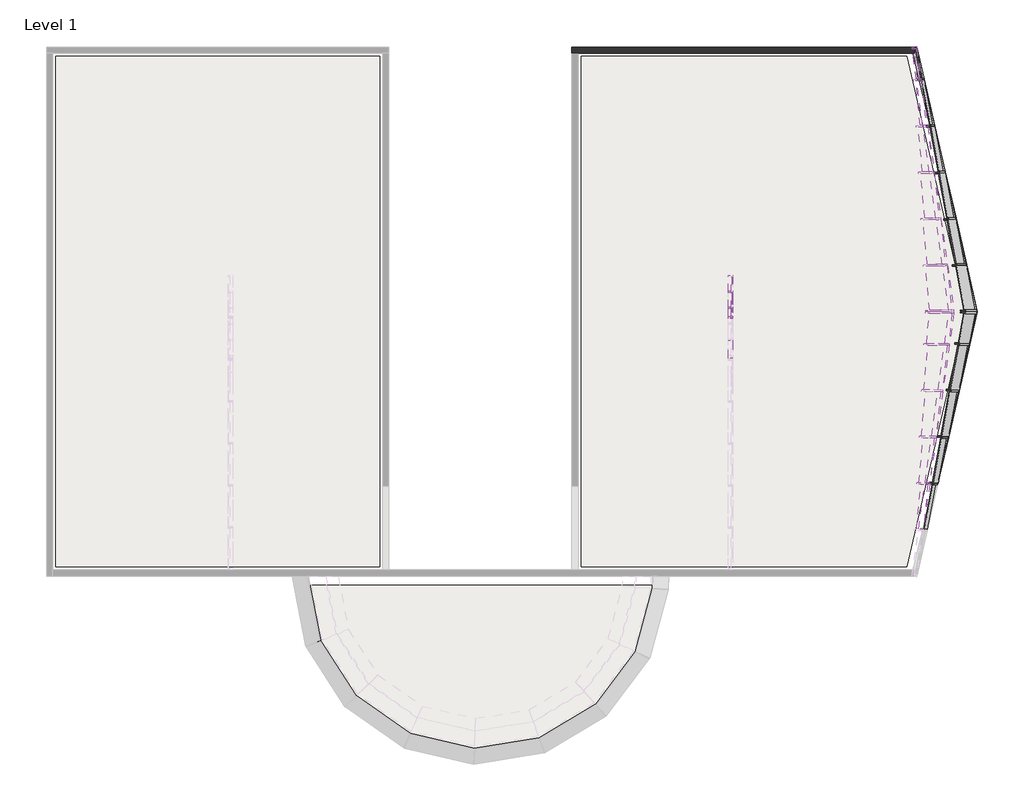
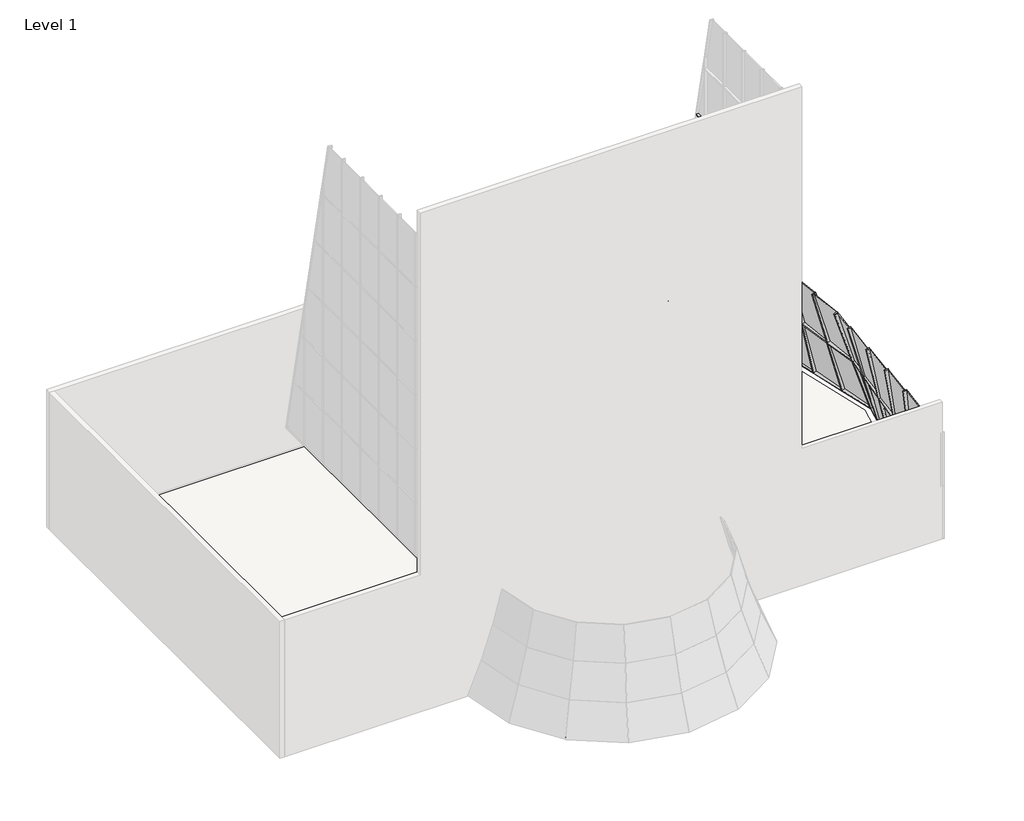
# One storey, part 4 of 4: 54 members, 24 plates, 2 slabs, 1 wall.
"""IFC4 building model written with IfcOpenShell, lengths in millimetres."""

from ifc_helpers import new_model, si_unit, point, frame, frame_2d, origin, place, context, project, spatial, polyline, circle_curve, trimmed, segment, composite_curve, outline, extrude, faceted_brep, transform, mapped, element, save
from components import rectangular_mullion_50_x_150mm_518b68e2, rectangular_mullion_50_x_150mm_6225e4e3, rectangular_mullion_50_x_150mm_8bc02e5d, rectangular_mullion_50_x_150mm_dfc8eed1, rectangular_mullion_50_x_150mm_56520ca9, rectangular_mullion_50_x_150mm_20ae9b8c, rectangular_mullion_50_x_150mm_801099e8, rectangular_mullion_50_x_150mm_69968c43, rectangular_mullion_50_x_150mm_676c024c, rectangular_mullion_50_x_150mm_129f4e6a, rectangular_mullion_50_x_150mm_15da01e7, rectangular_mullion_50_x_150mm_983cf9b3, rectangular_mullion_50_x_150mm_8846c378, rectangular_mullion_50_x_150mm_6840e1ac, rectangular_mullion_50_x_150mm_703a751b, rectangular_mullion_50_x_150mm_236c09f6, rectangular_mullion_50_x_150mm_9c993106, rectangular_mullion_50_x_150mm_60b7ab08, rectangular_mullion_50_x_150mm_e77f4dab, rectangular_mullion_50_x_150mm_2d7e4c86, rectangular_mullion_50_x_150mm_16837953, rectangular_mullion_50_x_150mm_7fbdd70b, rectangular_mullion_50_x_150mm_25ba70fb, rectangular_mullion_50_x_150mm_ec1c4419, rectangular_mullion_50_x_150mm_3088cb93, rectangular_mullion_50_x_150mm_96efe59e, rectangular_mullion_50_x_150mm_98b5b9d9, rectangular_mullion_50_x_150mm_c6ec9276, rectangular_mullion_50_x_150mm_3a427f09, rectangular_mullion_50_x_150mm_53b6e98a, rectangular_mullion_50_x_150mm_1572fd96, rectangular_mullion_50_x_150mm_5f09bd8f, rectangular_mullion_50_x_150mm_83d39878, rectangular_mullion_50_x_150mm_12241330, rectangular_mullion_50_x_150mm_e71b960d, rectangular_mullion_50_x_150mm_5c538901, rectangular_mullion_50_x_150mm_f722e24b, rectangular_mullion_50_x_150mm_84a9ff01, system_panel_glazed_84769eb7, system_panel_glazed_75138732, system_panel_glazed_98719c6a, system_panel_glazed_b6fc6198, system_panel_glazed_c1d942a5, system_panel_glazed_35f86fc2, system_panel_glazed_e6de464a, system_panel_glazed_34c2af45, system_panel_glazed_025133a9, system_panel_glazed_56b31b0b, system_panel_glazed_68d94cce, system_panel_glazed_0da2abb7, system_panel_glazed_028a0f7a, system_panel_glazed_7b28161b, system_panel_glazed_d099ec71, system_panel_glazed_9e20f47e, system_panel_glazed_84d2a35a, system_panel_glazed_6b13773f, system_panel_glazed_4526ffdc, system_panel_glazed_4e854008, system_panel_glazed_cf6f0135, system_panel_glazed_610fa7a8, system_panel_glazed_08bc44e3, system_panel_glazed_6285a200

model = new_model("IFC4")

# Units and contexts
model_context = context("Model", 3, world=origin())
ifc_project = project(units=[si_unit("LENGTHUNIT", "METRE", prefix="MILLI")], contexts=[model_context])

# Site, building, storey
site = spatial("IfcSite", under=ifc_project)
building = spatial("IfcBuilding", under=site)
storey = spatial("IfcBuildingStorey", under=building, Name="Level 1", Elevation=0.0)

# Members
placement = place(None, origin())
rectangular_mullion_50_x_150mm_shape = rectangular_mullion_50_x_150mm_518b68e2(model_context)
element("IfcMember", 1, ObjectType="Rectangular Mullion : 50 x 150mm", at=placement, inside=storey, context=model_context, shape_type="MappedRepresentation", body=[
    mapped(rectangular_mullion_50_x_150mm_shape, transform((7953.3508723, 6709.8159291, 6850.0), x_axis=(0.0, 1.0, 0.0), y_axis=(1.0, 0.0, 0.0), z_axis=(0.0, 0.0, -1.0))),
])
rectangular_mullion_50_x_150mm_2_shape = rectangular_mullion_50_x_150mm_6225e4e3(model_context)
element("IfcMember", 2, ObjectType="Rectangular Mullion : 50 x 150mm", at=placement, inside=storey, context=model_context, shape_type="MappedRepresentation", body=[
    mapped(rectangular_mullion_50_x_150mm_2_shape, transform((7953.3508723, 6709.8159291, 9200.0), x_axis=(0.0, 1.0, 0.0), y_axis=(1.0, 0.0, 0.0), z_axis=(0.0, 0.0, -1.0))),
])
rectangular_mullion_50_x_150mm_3_shape = rectangular_mullion_50_x_150mm_8bc02e5d(model_context)
element("IfcMember", 3, ObjectType="Rectangular Mullion : 50 x 150mm", at=placement, inside=storey, context=model_context, shape_type="MappedRepresentation", body=[
    mapped(rectangular_mullion_50_x_150mm_3_shape, transform((13862.2459218, 15389.8945169, 50.0), x_axis=(-0.18231342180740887, 0.9832404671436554, 0.0), y_axis=(0.9832404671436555, 0.1823134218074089, 0.0), z_axis=(0.0, 0.0, -1.0))),
])
rectangular_mullion_50_x_150mm_4_shape = rectangular_mullion_50_x_150mm_dfc8eed1(model_context)
element("IfcMember", 4, ObjectType="Rectangular Mullion : 50 x 150mm", at=placement, inside=storey, context=model_context, shape_type="MappedRepresentation", body=[
    mapped(rectangular_mullion_50_x_150mm_4_shape, transform((14548.1835029, 1370.2254396, 0.0), x_axis=(0.13362234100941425, -0.030753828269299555, -0.990555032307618), y_axis=(0.9653178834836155, -0.22217258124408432, 0.13711574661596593), z_axis=(-0.22429100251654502, -0.9745222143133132, 0.0))),
])
element("IfcMember", 5, ObjectType="Rectangular Mullion : 50 x 150mm", at=placement, inside=storey, context=model_context, shape_type="MappedRepresentation", body=[
    mapped(rectangular_mullion_50_x_150mm_4_shape, transform((14891.1522935, 2860.3909009, 0.0), x_axis=(0.1854055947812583, -0.04267199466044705, -0.9817351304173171), y_axis=(0.9567226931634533, -0.22019435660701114, 0.19025281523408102), z_axis=(-0.22429100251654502, -0.9745222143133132, 0.0))),
])
element("IfcMember", 6, ObjectType="Rectangular Mullion : 50 x 150mm", at=placement, inside=storey, context=model_context, shape_type="MappedRepresentation", body=[
    mapped(rectangular_mullion_50_x_150mm_4_shape, transform((15234.1210841, 4350.5563622, 0.0), x_axis=(0.23561017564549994, -0.05422682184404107, -0.9703336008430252), y_axis=(0.9456116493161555, -0.21763709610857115, 0.24176993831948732), z_axis=(-0.22429100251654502, -0.9745222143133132, 0.0))),
])
element("IfcMember", 7, ObjectType="Rectangular Mullion : 50 x 150mm", at=placement, inside=storey, context=model_context, shape_type="MappedRepresentation", body=[
    mapped(rectangular_mullion_50_x_150mm_4_shape, transform((15475.5932555, 8380.0599782, 0.0), x_axis=(0.22093854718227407, 0.050850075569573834, -0.9739612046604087), y_axis=(0.9491468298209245, 0.21845073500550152, 0.22671473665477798), z_axis=(0.22429100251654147, -0.9745222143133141, 0.0))),
])
element("IfcMember", 8, ObjectType="Rectangular Mullion : 50 x 150mm", at=placement, inside=storey, context=model_context, shape_type="MappedRepresentation", body=[
    mapped(rectangular_mullion_50_x_150mm_4_shape, transform((15132.624465, 9870.2254396, 0.0), x_axis=(0.17022869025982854, 0.039178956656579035, -0.9846254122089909), y_axis=(0.9595393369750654, 0.22084262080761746, 0.17467912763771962), z_axis=(0.22429100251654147, -0.9745222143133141, 0.0))),
])
element("IfcMember", 9, ObjectType="Rectangular Mullion : 50 x 150mm", at=placement, inside=storey, context=model_context, shape_type="MappedRepresentation", body=[
    mapped(rectangular_mullion_50_x_150mm_4_shape, transform((14789.6556744, 11360.3909009, 0.0), x_axis=(0.11805234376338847, 0.027170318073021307, -0.9926355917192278), y_axis=(0.9673454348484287, 0.22263923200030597, 0.12113868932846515), z_axis=(0.22429100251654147, -0.9745222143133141, 0.0))),
])
element("IfcMember", 10, ObjectType="Rectangular Mullion : 50 x 150mm", at=placement, inside=storey, context=model_context, shape_type="MappedRepresentation", body=[
    mapped(rectangular_mullion_50_x_150mm_4_shape, transform((14446.6868838, 12850.5563622, 0.0), x_axis=(0.06482570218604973, 0.014919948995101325, -0.9977850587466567), y_axis=(0.9723637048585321, 0.22379421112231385, 0.06652049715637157), z_axis=(0.22429100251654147, -0.9745222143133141, 0.0))),
])
rectangular_mullion_50_x_150mm_5_shape = rectangular_mullion_50_x_150mm_56520ca9(model_context)
element("IfcMember", 11, ObjectType="Rectangular Mullion : 50 x 150mm", at=placement, inside=storey, context=model_context, shape_type="MappedRepresentation", body=[
    mapped(rectangular_mullion_50_x_150mm_5_shape, transform((14103.7180932, 14340.7218236, 0.0), x_axis=(0.01899155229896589, 0.004370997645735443, -0.9998100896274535), y_axis=(0.974337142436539, 0.22424840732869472, 0.019488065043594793), z_axis=(0.22429100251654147, -0.9745222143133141, 0.0))),
])
rectangular_mullion_50_x_150mm_6_shape = rectangular_mullion_50_x_150mm_20ae9b8c(model_context)
element("IfcMember", 12, ObjectType="Rectangular Mullion : 50 x 150mm", at=placement, inside=storey, context=model_context, shape_type="MappedRepresentation", body=[
    mapped(rectangular_mullion_50_x_150mm_6_shape, transform((13862.2459218, 15389.8945169, 2369.6875935), x_axis=(-0.09551460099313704, 0.9954280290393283, 0.0), y_axis=(0.9954280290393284, 0.09551460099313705, 0.0), z_axis=(0.0, 0.0, -1.0))),
])
rectangular_mullion_50_x_150mm_7_shape = rectangular_mullion_50_x_150mm_801099e8(model_context)
element("IfcMember", 13, ObjectType="Rectangular Mullion : 50 x 150mm", at=placement, inside=storey, context=model_context, shape_type="MappedRepresentation", body=[
    mapped(rectangular_mullion_50_x_150mm_7_shape, transform((14851.9224012, 8355.3037759, 2369.6875935), x_axis=(-0.2518713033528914, -0.03543505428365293, 0.967111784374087), y_axis=(0.9576805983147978, 0.1347333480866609, 0.25435171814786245), z_axis=(-0.13931517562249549, 0.9902480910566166, 0.0))),
])
rectangular_mullion_50_x_150mm_8_shape = rectangular_mullion_50_x_150mm_69968c43(model_context)
element("IfcMember", 14, ObjectType="Rectangular Mullion : 50 x 150mm", at=placement, inside=storey, context=model_context, shape_type="MappedRepresentation", body=[
    mapped(rectangular_mullion_50_x_150mm_8_shape, transform((14642.2752786, 9845.4692373, 2369.6875935), x_axis=(-0.20099446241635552, -0.028277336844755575, 0.9791841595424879), y_axis=(0.9696352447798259, 0.13641521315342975, 0.2029738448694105), z_axis=(-0.13931517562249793, 0.9902480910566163, 0.0))),
])
element("IfcMember", 15, ObjectType="Rectangular Mullion : 50 x 150mm", at=placement, inside=storey, context=model_context, shape_type="MappedRepresentation", body=[
    mapped(rectangular_mullion_50_x_150mm_8_shape, transform((14432.628156, 11335.6346986, 2369.6875935), x_axis=(-0.14840282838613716, -0.020878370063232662, 0.9887065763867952), y_axis=(0.9790647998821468, 0.13774183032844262, 0.1498642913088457), z_axis=(-0.13931517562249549, 0.9902480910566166, 0.0))),
])
element("IfcMember", 16, ObjectType="Rectangular Mullion : 50 x 150mm", at=placement, inside=storey, context=model_context, shape_type="MappedRepresentation", body=[
    mapped(rectangular_mullion_50_x_150mm_8_shape, transform((14222.9810334, 12825.80016, 2369.6875935), x_axis=(-0.09449541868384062, -0.013294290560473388, 0.9954365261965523), y_axis=(0.9857291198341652, 0.13867941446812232, 0.09542600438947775), z_axis=(-0.13931517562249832, 0.9902480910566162, 0.0))),
])
element("IfcMember", 17, ObjectType="Rectangular Mullion : 50 x 150mm", at=placement, inside=storey, context=model_context, shape_type="MappedRepresentation", body=[
    mapped(rectangular_mullion_50_x_150mm_8_shape, transform((14013.3339108, 14315.9656213, 2369.6875935), x_axis=(-0.0397272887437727, -0.005589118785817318, 0.9991949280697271), y_axis=(0.9894508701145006, 0.13920301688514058, 0.04011852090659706), z_axis=(-0.1393151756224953, 0.9902480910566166, 0.0))),
])
element("IfcMember", 18, ObjectType="Rectangular Mullion : 50 x 150mm", at=placement, inside=storey, context=model_context, shape_type="MappedRepresentation", body=[
    mapped(rectangular_mullion_50_x_150mm_8_shape, transform((14278.0572876, 1345.4692373, 2369.6875935), x_axis=(-0.10876014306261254, 0.015301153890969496, 0.993950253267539), y_axis=(0.9842573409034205, -0.13847235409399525, 0.10983120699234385), z_axis=(0.13931517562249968, 0.990248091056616, 0.0))),
])
element("IfcMember", 19, ObjectType="Rectangular Mullion : 50 x 150mm", at=placement, inside=storey, context=model_context, shape_type="MappedRepresentation", body=[
    mapped(rectangular_mullion_50_x_150mm_8_shape, transform((14487.7044102, 2835.6346986, 2369.6875935), x_axis=(-0.16236394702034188, 0.02284251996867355, 0.986466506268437), y_axis=(0.9768465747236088, -0.1374297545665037, 0.16396289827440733), z_axis=(0.13931517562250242, 0.9902480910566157, 0.0))),
])
element("IfcMember", 20, ObjectType="Rectangular Mullion : 50 x 150mm", at=placement, inside=storey, context=model_context, shape_type="MappedRepresentation", body=[
    mapped(rectangular_mullion_50_x_150mm_8_shape, transform((14697.3515328, 4325.80016, 2369.6875935), x_axis=(-0.21454111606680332, 0.030183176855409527, 0.9762484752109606), y_axis=(0.966728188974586, -0.13600622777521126, 0.21665390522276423), z_axis=(0.13931517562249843, 0.9902480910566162, 0.0))),
])
element("IfcMember", 21, ObjectType="Rectangular Mullion : 50 x 150mm", at=placement, inside=storey, context=model_context, shape_type="MappedRepresentation", body=[
    mapped(rectangular_mullion_50_x_150mm_8_shape, transform((14906.9986554, 5815.9656213, 2369.6875935), x_axis=(-0.26490964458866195, 0.03726938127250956, 0.963552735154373), y_axis=(0.9541562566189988, -0.13423751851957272, 0.26751846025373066), z_axis=(0.13931517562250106, 0.9902480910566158, 0.0))),
])
rectangular_mullion_50_x_150mm_9_shape = rectangular_mullion_50_x_150mm_676c024c(model_context)
element("IfcMember", 22, ObjectType="Rectangular Mullion : 50 x 150mm", at=placement, inside=storey, context=model_context, shape_type="MappedRepresentation", body=[
    mapped(rectangular_mullion_50_x_150mm_9_shape, transform((13869.2116806, 15340.3821123, 2369.6875935), x_axis=(-0.0018330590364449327, -0.00025788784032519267, 0.9999982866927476), y_axis=(0.99024639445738, 0.13931493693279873, 0.0018511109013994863), z_axis=(-0.13931517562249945, 0.990248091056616, 0.0))),
])
element("IfcMember", 23, ObjectType="Rectangular Mullion : 50 x 150mm", at=placement, inside=storey, context=model_context, shape_type="MappedRepresentation", body=[
    mapped(rectangular_mullion_50_x_150mm_9_shape, transform((15051.1208856, 6840.3821123, 2369.6875935), x_axis=(-0.29832170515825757, 0.04197002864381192, 0.95354217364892), y_axis=(0.9442433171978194, -0.13284289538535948, 0.30125956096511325), z_axis=(0.13931517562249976, 0.990248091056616, 0.0))),
])
rectangular_mullion_50_x_150mm_10_shape = rectangular_mullion_50_x_150mm_129f4e6a(model_context)
element("IfcMember", 24, ObjectType="Rectangular Mullion : 50 x 150mm", at=placement, inside=storey, context=model_context, shape_type="MappedRepresentation", body=[
    mapped(rectangular_mullion_50_x_150mm_10_shape, transform((15462.8008485, 8380.0599782, 48.3358492), x_axis=(-0.20836815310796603, 0.976494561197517, -0.05514603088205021), y_axis=(0.9439938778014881, 0.21554204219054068, 0.24983431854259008), z_axis=(0.25584814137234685, 0.0, -0.9667169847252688))),
])
rectangular_mullion_50_x_150mm_11_shape = rectangular_mullion_50_x_150mm_15da01e7(model_context)
element("IfcMember", 25, ObjectType="Rectangular Mullion : 50 x 150mm", at=placement, inside=storey, context=model_context, shape_type="MappedRepresentation", body=[
    mapped(rectangular_mullion_50_x_150mm_11_shape, transform((15122.4238392, 9870.2254396, 48.948414), x_axis=(-0.21353585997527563, 0.9759212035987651, -0.044499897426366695), y_axis=(0.9553959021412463, 0.21812336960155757, 0.19910014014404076), z_axis=(0.20401251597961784, 0.0, -0.9789682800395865))),
])
rectangular_mullion_50_x_150mm_12_shape = rectangular_mullion_50_x_150mm_983cf9b3(model_context)
element("IfcMember", 26, ObjectType="Rectangular Mullion : 50 x 150mm", at=placement, inside=storey, context=model_context, shape_type="MappedRepresentation", body=[
    mapped(rectangular_mullion_50_x_150mm_12_shape, transform((14782.1354958, 11360.3909009, 49.4312342), x_axis=(-0.21765004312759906, 0.9754650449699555, -0.03311200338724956), y_axis=(0.9643688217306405, 0.220154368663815, 0.14671342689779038), z_axis=(0.15040357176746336, 0.0, -0.9886246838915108))),
])
rectangular_mullion_50_x_150mm_13_shape = rectangular_mullion_50_x_150mm_8846c378(model_context)
element("IfcMember", 27, ObjectType="Rectangular Mullion : 50 x 150mm", at=placement, inside=storey, context=model_context, shape_type="MappedRepresentation", body=[
    mapped(rectangular_mullion_50_x_150mm_13_shape, transform((14441.9151206, 12850.5563622, 49.7717819), x_axis=(-0.22057358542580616, 0.9751410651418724, -0.021147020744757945), y_axis=(0.9706901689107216, 0.2215849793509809, 0.09306284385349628), z_axis=(0.09543526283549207, 0.0, -0.9954356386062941))),
])
rectangular_mullion_50_x_150mm_14_shape = rectangular_mullion_50_x_150mm_6840e1ac(model_context)
element("IfcMember", 28, ObjectType="Rectangular Mullion : 50 x 150mm", at=placement, inside=storey, context=model_context, shape_type="MappedRepresentation", body=[
    mapped(rectangular_mullion_50_x_150mm_14_shape, transform((14101.7390664, 14340.7218236, 49.9608192), x_axis=(-0.222204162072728, 0.9749604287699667, -0.008801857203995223), y_axis=(0.9741964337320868, 0.22237842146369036, 0.038589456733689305), z_axis=(0.039580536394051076, 0.0, -0.999216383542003))),
])
rectangular_mullion_50_x_150mm_15_shape = rectangular_mullion_50_x_150mm_703a751b(model_context)
element("IfcMember", 29, ObjectType="Rectangular Mullion : 50 x 150mm", at=placement, inside=storey, context=model_context, shape_type="MappedRepresentation", body=[
    mapped(rectangular_mullion_50_x_150mm_15_shape, transform((14848.4395218, 8380.0599782, 2369.6875935), x_axis=(-0.13027862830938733, 0.990877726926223, -0.03447911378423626), y_axis=(0.957898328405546, 0.13476397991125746, 0.2535142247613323), z_axis=(0.25584814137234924, 0.0, -0.9667169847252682))),
])
rectangular_mullion_50_x_150mm_16_shape = rectangular_mullion_50_x_150mm_236c09f6(model_context)
element("IfcMember", 30, ObjectType="Rectangular Mullion : 50 x 150mm", at=placement, inside=storey, context=model_context, shape_type="MappedRepresentation", body=[
    mapped(rectangular_mullion_50_x_150mm_16_shape, transform((14638.7923992, 9870.2254396, 2369.6875935), x_axis=(-0.1335706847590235, 0.9906483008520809, -0.027835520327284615), y_axis=(0.9698132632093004, 0.13644025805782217, 0.20210465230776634), z_axis=(0.20401251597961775, 0.0, -0.9789682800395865))),
])
rectangular_mullion_50_x_150mm_17_shape = rectangular_mullion_50_x_150mm_9c993106(model_context)
element("IfcMember", 31, ObjectType="Rectangular Mullion : 50 x 150mm", at=placement, inside=storey, context=model_context, shape_type="MappedRepresentation", body=[
    mapped(rectangular_mullion_50_x_150mm_17_shape, transform((14429.1452766, 11360.3909009, 2369.6875935), x_axis=(-0.13619359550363, 0.9904655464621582, -0.02071969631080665), y_axis=(0.9791986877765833, 0.13776066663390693, 0.1489695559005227), z_axis=(0.15040357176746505, 0.0, -0.9886246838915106))),
])
rectangular_mullion_50_x_150mm_18_shape = rectangular_mullion_50_x_150mm_60b7ab08(model_context)
element("IfcMember", 32, ObjectType="Rectangular Mullion : 50 x 150mm", at=placement, inside=storey, context=model_context, shape_type="MappedRepresentation", body=[
    mapped(rectangular_mullion_50_x_150mm_18_shape, transform((14219.498154, 12850.5563622, 2369.6875935), x_axis=(-0.13805851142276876, 0.990335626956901, -0.013236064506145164), y_axis=(0.9858153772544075, 0.13869154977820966, 0.09451294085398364), z_axis=(0.09543526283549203, 0.0, -0.9954356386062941))),
])
rectangular_mullion_50_x_150mm_19_shape = rectangular_mullion_50_x_150mm_e77f4dab(model_context)
element("IfcMember", 33, ObjectType="Rectangular Mullion : 50 x 150mm", at=placement, inside=storey, context=model_context, shape_type="MappedRepresentation", body=[
    mapped(rectangular_mullion_50_x_150mm_19_shape, transform((14009.8510314, 14340.7218236, 2369.6875935), x_axis=(-0.1390990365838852, 0.990263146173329, -0.005509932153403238), y_axis=(0.9894871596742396, 0.13920812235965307, 0.039195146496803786), z_axis=(0.039580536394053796, 0.0, -0.9992163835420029))),
])
rectangular_mullion_50_x_150mm_20_shape = rectangular_mullion_50_x_150mm_2d7e4c86(model_context)
element("IfcMember", 34, ObjectType="Rectangular Mullion : 50 x 150mm", at=placement, inside=storey, context=model_context, shape_type="MappedRepresentation", body=[
    mapped(rectangular_mullion_50_x_150mm_20_shape, transform((14542.5926569, 1370.2254396, 49.6864412), x_axis=(0.2198392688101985, 0.9752224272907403, 0.024736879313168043), y_axis=(0.96910663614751, -0.22122661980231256, 0.10904636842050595), z_axis=(0.11181692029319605, 0.0, -0.993728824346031))),
])
rectangular_mullion_50_x_150mm_21_shape = rectangular_mullion_50_x_150mm_16837953(model_context)
element("IfcMember", 35, ObjectType="Rectangular Mullion : 50 x 150mm", at=placement, inside=storey, context=model_context, shape_type="MappedRepresentation", body=[
    mapped(rectangular_mullion_50_x_150mm_21_shape, transform((14882.8307998, 2860.3909009, 49.3026647), x_axis=(0.21655095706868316, 0.9755868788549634, 0.03655030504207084), y_axis=(0.9619806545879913, -0.219613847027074, 0.1623668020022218), z_axis=(0.16642987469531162, 0.0, -0.9860532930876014))),
])
rectangular_mullion_50_x_150mm_22_shape = rectangular_mullion_50_x_150mm_7fbdd70b(model_context)
element("IfcMember", 36, ObjectType="Rectangular Mullion : 50 x 150mm", at=placement, inside=storey, context=model_context, shape_type="MappedRepresentation", body=[
    mapped(rectangular_mullion_50_x_150mm_22_shape, transform((15223.1433786, 4350.5563622, 48.7800162), x_axis=(0.21210941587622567, 0.976079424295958, 0.04773419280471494), y_axis=(0.9522634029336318, -0.2174142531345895, 0.2143022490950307), z_axis=(0.21955410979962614, 0.0, -0.9756003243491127))),
])
rectangular_mullion_50_x_150mm_23_shape = rectangular_mullion_50_x_150mm_25ba70fb(model_context)
element("IfcMember", 37, ObjectType="Rectangular Mullion : 50 x 150mm", at=placement, inside=storey, context=model_context, shape_type="MappedRepresentation", body=[
    mapped(rectangular_mullion_50_x_150mm_23_shape, transform((15563.5500792, 5840.7218236, 48.1318391), x_axis=(0.20666004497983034, 0.9766841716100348, 0.058134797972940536), y_axis=(0.9401921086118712, -0.21468122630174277, 0.2644820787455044), z_axis=(0.2707959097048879, 0.0, -0.9626367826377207))),
])
rectangular_mullion_50_x_150mm_24_shape = rectangular_mullion_50_x_150mm_ec1c4419(model_context)
element("IfcMember", 38, ObjectType="Rectangular Mullion : 50 x 150mm", at=placement, inside=storey, context=model_context, shape_type="MappedRepresentation", body=[
    mapped(rectangular_mullion_50_x_150mm_24_shape, transform((14281.540167, 1370.2254396, 2369.6875935), x_axis=(0.13759001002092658, 0.9903682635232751, 0.01548198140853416), y_axis=(0.9841574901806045, -0.13845830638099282, 0.11073992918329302), z_axis=(0.11181692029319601, 0.0, -0.993728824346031))),
])
rectangular_mullion_50_x_150mm_25_shape = rectangular_mullion_50_x_150mm_3088cb93(model_context)
element("IfcMember", 39, ObjectType="Rectangular Mullion : 50 x 150mm", at=placement, inside=storey, context=model_context, shape_type="MappedRepresentation", body=[
    mapped(rectangular_mullion_50_x_150mm_25_shape, transform((14491.1872896, 2860.3909009, 2369.6875935), x_axis=(0.13549272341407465, 0.9905143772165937, 0.02286898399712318), y_axis=(0.9766999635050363, -0.1374091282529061, 0.16485118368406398), z_axis=(0.16642987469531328, 0.0, -0.986053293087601))),
])
rectangular_mullion_50_x_150mm_26_shape = rectangular_mullion_50_x_150mm_96efe59e(model_context)
element("IfcMember", 40, ObjectType="Rectangular Mullion : 50 x 150mm", at=placement, inside=storey, context=model_context, shape_type="MappedRepresentation", body=[
    mapped(rectangular_mullion_50_x_150mm_26_shape, transform((14700.8344122, 4350.5563622, 2369.6875935), x_axis=(0.13266169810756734, 0.9907116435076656, 0.02985487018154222), y_axis=(0.9665386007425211, -0.13597955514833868, 0.21751481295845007), z_axis=(0.21955410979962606, 0.0, -0.9756003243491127))),
])
rectangular_mullion_50_x_150mm_27_shape = rectangular_mullion_50_x_150mm_98b5b9d9(model_context)
element("IfcMember", 41, ObjectType="Rectangular Mullion : 50 x 150mm", at=placement, inside=storey, context=model_context, shape_type="MappedRepresentation", body=[
    mapped(rectangular_mullion_50_x_150mm_27_shape, transform((14910.4815348, 5840.7218236, 2369.6875935), x_axis=(0.12919110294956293, 0.9909535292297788, 0.0363422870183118), y_axis=(0.9539283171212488, -0.1342054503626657, 0.26834616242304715), z_axis=(0.27079590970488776, 0.0, -0.9626367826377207))),
])
rectangular_mullion_50_x_150mm_28_shape = rectangular_mullion_50_x_150mm_c6ec9276(model_context)
element("IfcMember", 42, ObjectType="Rectangular Mullion : 50 x 150mm", at=placement, inside=storey, context=model_context, shape_type="MappedRepresentation", body=[
    mapped(rectangular_mullion_50_x_150mm_28_shape, transform((15803.2836201, 6889.8945169, 47.6085045), x_axis=(0.16647777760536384, 0.9845967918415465, 0.05342571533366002), y_axis=(0.9375036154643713, -0.1748403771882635, 0.3008617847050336), z_axis=(0.3055685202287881, 0.0, -0.9521700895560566))),
])
rectangular_mullion_50_x_150mm_29_shape = rectangular_mullion_50_x_150mm_3a427f09(model_context)
element("IfcMember", 43, ObjectType="Rectangular Mullion : 50 x 150mm", at=placement, inside=storey, context=model_context, shape_type="MappedRepresentation", body=[
    mapped(rectangular_mullion_50_x_150mm_29_shape, transform((15058.0866444, 6889.8945169, 2369.6875935), x_axis=(0.08713103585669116, 0.995804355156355, 0.02796191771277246), y_axis=(0.9481751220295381, -0.09150784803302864, 0.30428646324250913), z_axis=(0.30556852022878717, 0.0, -0.9521700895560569))),
])
element("IfcMember", 44, ObjectType="Rectangular Mullion : 50 x 150mm", at=placement, inside=storey, context=model_context, shape_type="MappedRepresentation", body=[
    mapped(rectangular_mullion_50_x_150mm_28_shape, transform((15058.0866444, 6889.8945169, 2369.6875935), x_axis=(0.1668718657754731, -0.984523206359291, 0.053552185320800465), y_axis=(0.9374335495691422, 0.17525426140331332, 0.3008392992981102), z_axis=(-0.3055685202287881, 0.0, 0.9521700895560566))),
])
element("IfcMember", 45, ObjectType="Rectangular Mullion : 50 x 150mm", at=placement, inside=storey, context=model_context, shape_type="MappedRepresentation", body=[
    mapped(rectangular_mullion_50_x_150mm_29_shape, transform((14297.6112427, 6889.8945169, 4739.375187), x_axis=(0.08734203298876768, -0.9957839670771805, 0.028029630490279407), y_axis=(0.9481557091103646, 0.09172944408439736, 0.30428023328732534), z_axis=(-0.30556852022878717, 0.0, 0.9521700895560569))),
])
rectangular_mullion_50_x_150mm_30_shape = rectangular_mullion_50_x_150mm_53b6e98a(model_context)
element("IfcMember", 46, ObjectType="Rectangular Mullion : 50 x 150mm", at=placement, inside=storey, context=model_context, shape_type="MappedRepresentation", body=[
    mapped(rectangular_mullion_50_x_150mm_30_shape, transform((15577.0898747, 5840.7218236, 0.0), x_axis=(0.27688626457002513, -0.06372671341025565, -0.9587872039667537), y_axis=(0.9343594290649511, -0.2150473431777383, 0.28412514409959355), z_axis=(-0.22429100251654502, -0.9745222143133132, 0.0))),
])
rectangular_mullion_50_x_150mm_31_shape = rectangular_mullion_50_x_150mm_1572fd96(model_context)
element("IfcMember", 47, ObjectType="Rectangular Mullion : 50 x 150mm", at=placement, inside=storey, context=model_context, shape_type="MappedRepresentation", body=[
    mapped(rectangular_mullion_50_x_150mm_31_shape, transform((7953.3508723, 8063.1361645, 6800.0), x_axis=(0.0, 0.9778914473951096, 0.20911316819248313), y_axis=(1.0, 0.0, 0.0), z_axis=(0.0, 0.20911316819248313, -0.9778914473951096))),
])
rectangular_mullion_50_x_150mm_32_shape = rectangular_mullion_50_x_150mm_5f09bd8f(model_context)
element("IfcMember", 48, ObjectType="Rectangular Mullion : 50 x 150mm", at=placement, inside=storey, context=model_context, shape_type="MappedRepresentation", body=[
    mapped(rectangular_mullion_50_x_150mm_32_shape, transform((7953.3508723, 7549.9180512, 9200.0), x_axis=(0.0, 0.9778914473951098, 0.2091131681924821), y_axis=(1.0, 0.0, 0.0), z_axis=(0.0, 0.2091131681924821, -0.9778914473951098))),
])
rectangular_mullion_50_x_150mm_33_shape = rectangular_mullion_50_x_150mm_83d39878(model_context)
element("IfcMember", 49, ObjectType="Rectangular Mullion : 50 x 150mm", at=placement, inside=storey, context=model_context, shape_type="MappedRepresentation", body=[
    mapped(rectangular_mullion_50_x_150mm_33_shape, transform((7953.3508723, 7036.6999379, 11600.0), x_axis=(0.0, 0.9778914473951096, 0.209113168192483), y_axis=(1.0, 0.0, 0.0), z_axis=(0.0, 0.20911316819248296, -0.9778914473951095))),
])
rectangular_mullion_50_x_150mm_34_shape = rectangular_mullion_50_x_150mm_12241330(model_context)
element("IfcMember", 50, ObjectType="Rectangular Mullion : 50 x 150mm", at=placement, inside=storey, context=model_context, shape_type="MappedRepresentation", body=[
    mapped(rectangular_mullion_50_x_150mm_34_shape, transform((7953.3508723, 7549.9180512, 9200.0), x_axis=(0.0, 0.0, 1.0), y_axis=(1.0, 0.0, 0.0), z_axis=(0.0, 1.0, 0.0))),
])
rectangular_mullion_50_x_150mm_35_shape = rectangular_mullion_50_x_150mm_e71b960d(model_context)
element("IfcMember", 51, ObjectType="Rectangular Mullion : 50 x 150mm", at=placement, inside=storey, context=model_context, shape_type="MappedRepresentation", body=[
    mapped(rectangular_mullion_50_x_150mm_35_shape, transform((7953.3508723, 7036.6999379, 11600.0), x_axis=(0.0, 0.0, 1.0), y_axis=(1.0, 0.0, 0.0), z_axis=(0.0, 1.0, 0.0))),
])
rectangular_mullion_50_x_150mm_36_shape = rectangular_mullion_50_x_150mm_5c538901(model_context)
element("IfcMember", 52, ObjectType="Rectangular Mullion : 50 x 150mm", at=placement, inside=storey, context=model_context, shape_type="MappedRepresentation", body=[
    mapped(rectangular_mullion_50_x_150mm_36_shape, transform((7953.3508723, 6010.2637112, 16400.0), x_axis=(0.0, 0.0, 1.0), y_axis=(1.0, 0.0, 0.0), z_axis=(0.0, 1.0, 0.0))),
])
rectangular_mullion_50_x_150mm_37_shape = rectangular_mullion_50_x_150mm_f722e24b(model_context)
element("IfcMember", 53, ObjectType="Rectangular Mullion : 50 x 150mm", at=placement, inside=storey, context=model_context, shape_type="MappedRepresentation", body=[
    mapped(rectangular_mullion_50_x_150mm_37_shape, transform((7953.3508723, 6709.8159291, 11600.0), x_axis=(0.0, 1.0, 0.0), y_axis=(1.0, 0.0, 0.0), z_axis=(0.0, 0.0, -1.0))),
])
rectangular_mullion_50_x_150mm_38_shape = rectangular_mullion_50_x_150mm_84a9ff01(model_context)
element("IfcMember", 54, ObjectType="Rectangular Mullion : 50 x 150mm", at=placement, inside=storey, context=model_context, shape_type="MappedRepresentation", body=[
    mapped(rectangular_mullion_50_x_150mm_38_shape, transform((15818.5620461, 6889.8945169, 0.0), x_axis=(0.26982573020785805, 0.06210169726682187, -0.9609044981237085), y_axis=(0.9364227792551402, 0.2155222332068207, 0.27688002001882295), z_axis=(0.22429100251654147, -0.9745222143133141, 0.0))),
])

# Plates
system_panel_glazed_shape = system_panel_glazed_84769eb7(model_context)
element("IfcPlate", 55, ObjectType="System Panel : Glazed", at=placement, inside=storey, context=model_context, shape_type="MappedRepresentation", body=[
    mapped(system_panel_glazed_shape, transform((15617.7783399, 7715.5924955, 49.0169792), x_axis=(-0.18552879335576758, 0.9825726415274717, 0.011404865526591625), y_axis=(-0.9448667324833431, -0.17519812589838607, -0.2766450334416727), z_axis=(-0.26982573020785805, -0.06210169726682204, 0.9609044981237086))),
])
system_panel_glazed_2_shape = system_panel_glazed_75138732(model_context)
element("IfcPlate", 56, ObjectType="System Panel : Glazed", at=placement, inside=storey, context=model_context, shape_type="MappedRepresentation", body=[
    mapped(system_panel_glazed_2_shape, transform((14369.5999846, 609.5619758, 49.8878062), x_axis=(0.18260073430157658, 0.9831807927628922, -0.0035356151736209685), y_axis=(-0.9798729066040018, 0.1816890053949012, -0.08269336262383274), z_axis=(-0.0806601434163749, 0.0185643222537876, 0.996568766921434))),
])
system_panel_glazed_3_shape = system_panel_glazed_98719c6a(model_context)
element("IfcPlate", 57, ObjectType="System Panel : Glazed", at=placement, inside=storey, context=model_context, shape_type="MappedRepresentation", body=[
    mapped(system_panel_glazed_3_shape, transform((14707.1467248, 2085.490519, 49.7134403), x_axis=(0.1831019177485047, 0.9830766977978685, -0.005821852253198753), y_axis=(-0.9739706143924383, 0.18059459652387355, -0.13699209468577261), z_axis=(-0.13362234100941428, 0.0307538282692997, 0.9905550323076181))),
])
system_panel_glazed_4_shape = system_panel_glazed_b6fc6198(model_context)
element("IfcPlate", 58, ObjectType="System Panel : Glazed", at=placement, inside=storey, context=model_context, shape_type="MappedRepresentation", body=[
    mapped(system_panel_glazed_4_shape, transform((15044.7287003, 3561.4224297, 49.4629456), x_axis=(0.18383149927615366, 0.9829251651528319, -0.008006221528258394), y_axis=(-0.9653138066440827, 0.17898944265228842, -0.1900842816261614), z_axis=(-0.1854055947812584, 0.04267199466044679, 0.9817351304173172))),
])
system_panel_glazed_5_shape = system_panel_glazed_c1d942a5(model_context)
element("IfcPlate", 59, ObjectType="System Panel : Glazed", at=placement, inside=storey, context=model_context, shape_type="MappedRepresentation", body=[
    mapped(system_panel_glazed_5_shape, transform((15382.3571875, 5037.3553898, 49.1408376), x_axis=(0.18476499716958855, 0.9827312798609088, -0.01005621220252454), y_axis=(-0.9541224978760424, 0.17691433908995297, -0.2415607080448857), z_axis=(-0.23561017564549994, 0.054226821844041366, 0.9703336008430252))),
])
system_panel_glazed_6_shape = system_panel_glazed_35f86fc2(model_context)
element("IfcPlate", 60, ObjectType="System Panel : Glazed", at=placement, inside=storey, context=model_context, shape_type="MappedRepresentation", body=[
    mapped(system_panel_glazed_6_shape, transform((15667.414594, 6280.838019, 48.9811663), x_axis=(0.18569928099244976, 0.9825372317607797, -0.011677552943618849), y_axis=(-0.9427882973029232, 0.1748127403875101, -0.2838850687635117), z_axis=(-0.2768862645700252, 0.06372671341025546, 0.9587872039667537))),
])
system_panel_glazed_7_shape = system_panel_glazed_e6de464a(model_context)
element("IfcPlate", 61, ObjectType="System Panel : Glazed", at=placement, inside=storey, context=model_context, shape_type="MappedRepresentation", body=[
    mapped(system_panel_glazed_7_shape, transform((14173.6056216, 614.6663186, 2394.6395054), x_axis=(0.09582183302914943, 0.9953916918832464, -0.003681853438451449), y_axis=(-0.9919341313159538, 0.09517934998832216, -0.08371123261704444), z_axis=(-0.08297502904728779, 0.011673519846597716, 0.9964832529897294))),
])
system_panel_glazed_8_shape = system_panel_glazed_34c2af45(model_context)
element("IfcPlate", 62, ObjectType="System Panel : Glazed", at=placement, inside=storey, context=model_context, shape_type="MappedRepresentation", body=[
    mapped(system_panel_glazed_8_shape, transform((14380.9913317, 2095.7886124, 2394.5674428), x_axis=(0.09635751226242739, 0.9953283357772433, -0.006060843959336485), y_axis=(-0.9858125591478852, 0.09459196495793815, -0.13865770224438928), z_axis=(-0.13743663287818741, 0.019335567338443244, 0.9903218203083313))),
])
system_panel_glazed_9_shape = system_panel_glazed_025133a9(model_context)
element("IfcPlate", 63, ObjectType="System Panel : Glazed", at=placement, inside=storey, context=model_context, shape_type="MappedRepresentation", body=[
    mapped(system_panel_glazed_9_shape, transform((14588.3917847, 3576.9167119, 2394.4645181), x_axis=(0.09713673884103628, 0.9952361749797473, -0.008331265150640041), y_axis=(-0.9768390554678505, 0.09373092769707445, -0.19235377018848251), z_axis=(-0.19065653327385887, 0.026822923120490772, 0.9812902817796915))),
])
system_panel_glazed_10_shape = system_panel_glazed_56b31b0b(model_context)
element("IfcPlate", 64, ObjectType="System Panel : Glazed", at=placement, inside=storey, context=model_context, shape_type="MappedRepresentation", body=[
    mapped(system_panel_glazed_10_shape, transform((14795.8116664, 5058.0490756, 2394.3322139), x_axis=(0.09813277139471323, 0.9951183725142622, -0.010458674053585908), y_axis=(-0.9652469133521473, 0.09261862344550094, -0.24437714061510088), z_axis=(-0.2422155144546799, 0.03407660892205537, 0.9696238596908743))),
])
system_panel_glazed_11_shape = system_panel_glazed_68d94cce(model_context)
element("IfcPlate", 65, ObjectType="System Panel : Glazed", at=placement, inside=storey, context=model_context, shape_type="MappedRepresentation", body=[
    mapped(system_panel_glazed_11_shape, transform((14971.2232697, 6306.6203563, 2394.3612215), x_axis=(0.09912853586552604, 0.9950006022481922, -0.012138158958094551), y_axis=(-0.9535165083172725, 0.09149305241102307, -0.28711546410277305), z_axis=(-0.28456950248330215, 0.04003527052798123, 0.9578190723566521))),
])
system_panel_glazed_12_shape = system_panel_glazed_0da2abb7(model_context)
element("IfcPlate", 66, ObjectType="System Panel : Glazed", at=placement, inside=storey, context=model_context, shape_type="MappedRepresentation", body=[
    mapped(system_panel_glazed_12_shape, transform((15282.4354927, 9179.2144797, 49.2433077), x_axis=(-0.18446916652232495, 0.9827927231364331, 0.009465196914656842), y_axis=(-0.9576832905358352, -0.17757458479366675, -0.226517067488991), z_axis=(-0.22093854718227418, -0.050850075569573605, 0.9739612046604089))),
])
system_panel_glazed_13_shape = system_panel_glazed_028a0f7a(model_context)
element("IfcPlate", 67, ObjectType="System Panel : Glazed", at=placement, inside=storey, context=model_context, shape_type="MappedRepresentation", body=[
    mapped(system_panel_glazed_13_shape, transform((14944.8218686, 10655.1473755, 49.5447628), x_axis=(-0.18359313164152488, 0.9829746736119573, 0.0073724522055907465), y_axis=(-0.9681506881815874, -0.17951546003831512, -0.17452347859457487), z_axis=(-0.1702286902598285, -0.039178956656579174, 0.9846254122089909))),
])
system_panel_glazed_14_shape = system_panel_glazed_7b28161b(model_context)
element("IfcPlate", 68, ObjectType="System Panel : Glazed", at=placement, inside=storey, context=model_context, shape_type="MappedRepresentation", body=[
    mapped(system_panel_glazed_14_shape, transform((14607.25155, 12131.0785263, 49.7731433), x_axis=(-0.18292886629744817, 0.9831126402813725, 0.005154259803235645), y_axis=(-0.9760126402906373, -0.1809732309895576, -0.1210289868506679), z_axis=(-0.11805234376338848, -0.02717031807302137, 0.9926355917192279))),
])
system_panel_glazed_15_shape = system_panel_glazed_d099ec71(model_context)
element("IfcPlate", 69, ObjectType="System Panel : Glazed", at=placement, inside=storey, context=model_context, shape_type="MappedRepresentation", body=[
    mapped(system_panel_glazed_15_shape, transform((14269.7129076, 13607.0056478, 49.9243019), x_axis=(-0.18249900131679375, 0.9832019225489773, 0.0028449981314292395), y_axis=(-0.9810666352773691, -0.18191034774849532, -0.06645963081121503), z_axis=(-0.06482570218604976, -0.014919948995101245, 0.9977850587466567))),
])
system_panel_glazed_16_shape = system_panel_glazed_9e20f47e(model_context)
element("IfcPlate", 70, ObjectType="System Panel : Glazed", at=placement, inside=storey, context=model_context, shape_type="MappedRepresentation", body=[
    mapped(system_panel_glazed_16_shape, transform((13984.0962414, 14853.9602205, 49.9810511), x_axis=(-0.18232934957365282, 0.9832371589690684, 0.0008351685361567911), y_axis=(-0.9830540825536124, -0.18227886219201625, -0.01947016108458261), z_axis=(-0.01899155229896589, -0.004370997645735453, 0.9998100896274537))),
])
system_panel_glazed_17_shape = system_panel_glazed_84d2a35a(model_context)
element("IfcPlate", 71, ObjectType="System Panel : Glazed", at=placement, inside=storey, context=model_context, shape_type="MappedRepresentation", body=[
    mapped(system_panel_glazed_17_shape, transform((14940.6247064, 7691.3740001, 2394.3707713), x_axis=(-0.09894691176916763, 0.9950220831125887, 0.0118559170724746), y_axis=(-0.9556668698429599, -0.09169938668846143, -0.2798071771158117), z_axis=(-0.2773271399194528, -0.03901636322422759, 0.9599830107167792))),
])
system_panel_glazed_18_shape = system_panel_glazed_6b13773f(model_context)
element("IfcPlate", 72, ObjectType="System Panel : Glazed", at=placement, inside=storey, context=model_context, shape_type="MappedRepresentation", body=[
    mapped(system_panel_glazed_18_shape, transform((14734.4264894, 9160.0598603, 2394.3743237), x_axis=(-0.09781724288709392, 0.9951556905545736, 0.00984573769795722), y_axis=(-0.9689341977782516, -0.09297243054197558, -0.22917820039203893), z_axis=(-0.2271526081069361, -0.031957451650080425, 0.9733346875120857))),
])
system_panel_glazed_19_shape = system_panel_glazed_4526ffdc(model_context)
element("IfcPlate", 73, ObjectType="System Panel : Glazed", at=placement, inside=storey, context=model_context, shape_type="MappedRepresentation", body=[
    mapped(system_panel_glazed_19_shape, transform((14527.0128195, 10641.1911307, 2394.4981128), x_axis=(-0.09688222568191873, 0.9952662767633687, 0.007672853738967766), y_axis=(-0.9797790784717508, -0.09401303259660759, -0.17661966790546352), z_axis=(-0.1750622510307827, -0.024629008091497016, 0.9842492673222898))),
])
system_panel_glazed_20_shape = system_panel_glazed_4e854008(model_context)
element("IfcPlate", 74, ObjectType="System Panel : Glazed", at=placement, inside=storey, context=model_context, shape_type="MappedRepresentation", body=[
    mapped(system_panel_glazed_20_shape, transform((14319.6172362, 12122.3176655, 2394.5920393), x_axis=(-0.09617258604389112, 0.9953502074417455, 0.005366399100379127), y_axis=(-0.9879301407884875, -0.09479515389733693, -0.12250679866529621), z_axis=(-0.12142845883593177, -0.01708342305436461, 0.9924531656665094))),
])
system_panel_glazed_21_shape = system_panel_glazed_cf6f0135(model_context)
element("IfcPlate", 75, ObjectType="System Panel : Glazed", at=placement, inside=storey, context=model_context, shape_type="MappedRepresentation", body=[
    mapped(system_panel_glazed_21_shape, transform((14112.234934, 13603.4379722, 2394.6547491), x_axis=(-0.0957130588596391, 0.9954045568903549, 0.0029628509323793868), y_axis=(-0.9931725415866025, -0.09529817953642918, -0.06727971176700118), z_axis=(-0.06668817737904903, -0.009382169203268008, 0.9977297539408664))),
])
system_panel_glazed_22_shape = system_panel_glazed_610fa7a8(model_context)
element("IfcPlate", 76, ObjectType="System Panel : Glazed", at=placement, inside=storey, context=model_context, shape_type="MappedRepresentation", body=[
    mapped(system_panel_glazed_22_shape, transform((13936.6511778, 14853.8697645, 2394.6727914), x_axis=(-0.09553163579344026, 0.9954260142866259, 0.0008698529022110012), y_axis=(-0.9952346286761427, -0.09549604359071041, -0.019711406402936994), z_axis=(-0.019538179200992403, -0.002748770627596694, 0.9998053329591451))),
])
system_panel_glazed_23_shape = system_panel_glazed_08bc44e3(model_context)
element("IfcPlate", 77, ObjectType="System Panel : Glazed", at=placement, inside=storey, context=model_context, shape_type="MappedRepresentation", body=[
    mapped(system_panel_glazed_23_shape, transform((7953.3508723, 7368.064815, 6850.0), x_axis=(0.0, 1.0, 0.0), y_axis=(-1.0, 0.0, 0.0), z_axis=(0.0, 0.0, 1.0))),
])
system_panel_glazed_24_shape = system_panel_glazed_6285a200(model_context)
element("IfcPlate", 78, ObjectType="System Panel : Glazed", at=placement, inside=storey, context=model_context, shape_type="MappedRepresentation", body=[
    mapped(system_panel_glazed_24_shape, transform((7953.3508723, 7114.1287694, 9225.0), x_axis=(0.0, 1.0, 0.0), y_axis=(-1.0, 0.0, 0.0), z_axis=(0.0, 0.0, 1.0))),
])

# Slabs
element("IfcSlab", 79, ObjectType="Generic 150mm", at=placement, inside=storey, context=model_context, shape_type="SweptSolid", body=[
    extrude(outline(composite_curve([segment(trimmed(circle_curve(frame_2d((-80.0907119, -1610.10548)), 5699.9999665), [point((5612.0090427, -1910.1054831))], [point((-5772.1904665, -1910.1054831))], False, "CARTESIAN"), True, "CONTINUOUS"), segment(polyline([(-5772.1904665, -1910.1054831), (5612.0090427, -1910.1054831)]), True, "CONTINUOUS")], self_intersect=False)), frame((0.0, 0.0, -150.0), z_axis=(0.0, 0.0, 1.0), x_axis=(1.0, 0.0, 0.0)), (0.0, 0.0, 1.0), 150.0),
])
element("IfcSlab", 80, ObjectType="Generic 150mm", at=placement, inside=storey, context=model_context, shape_type="SweptSolid", body=[
    extrude(outline(polyline([(15510.718884, 6889.8945169), (13623.4492111, -1310.1054831), (3162.2459218, -1310.1054831), (3162.2459218, 15089.8945169), (13623.4492111, 15089.8945169), (15510.718884, 6889.8945169)])), frame((0.0, 0.0, -150.0), z_axis=(0.0, 0.0, 1.0), x_axis=(1.0, 0.0, 0.0)), (0.0, 0.0, 1.0), 150.0),
    extrude(outline(polyline([(-3322.4273455, 15089.8945169), (-3322.4273455, -1310.1054831), (-13722.4273455, -1310.1054831), (-13722.4273455, 15089.8945169), (-3322.4273455, 15089.8945169)])), frame((0.0, 0.0, -150.0), z_axis=(0.0, 0.0, 1.0), x_axis=(1.0, 0.0, 0.0)), (0.0, 0.0, 1.0), 150.0),
])

# Wall
element("IfcWall", 81, ObjectType="Generic 200mm Wall", at=placement, inside=storey, context=model_context, shape_type="Brep", body=[
    faceted_brep([(13862.2459218, 15389.8945169, 0.0), (2862.2459218, 15389.8945169, 0.0), (2862.2459218, 15389.8945169, 6096.0), (13862.2459218, 15389.8945169, 6096.0), (13862.2459218, 15189.8945169, 0.0), (13862.2459218, 15189.8945169, 6096.0), (3062.2459218, 15189.8945169, 6096.0), (2862.2459218, 15189.8945169, 6096.0), (2862.2459218, 15189.8945169, 0.0), (3062.2459218, 15189.8945169, 0.0)], [[[0, 1, 2, 3]], [[4, 5, 6, 7, 8, 9]], [[1, 0, 4, 9, 8]], [[3, 2, 7, 6, 5]], [[0, 3, 5, 4]], [[2, 1, 8, 7]]]),
])

save(model, "model.ifc")
